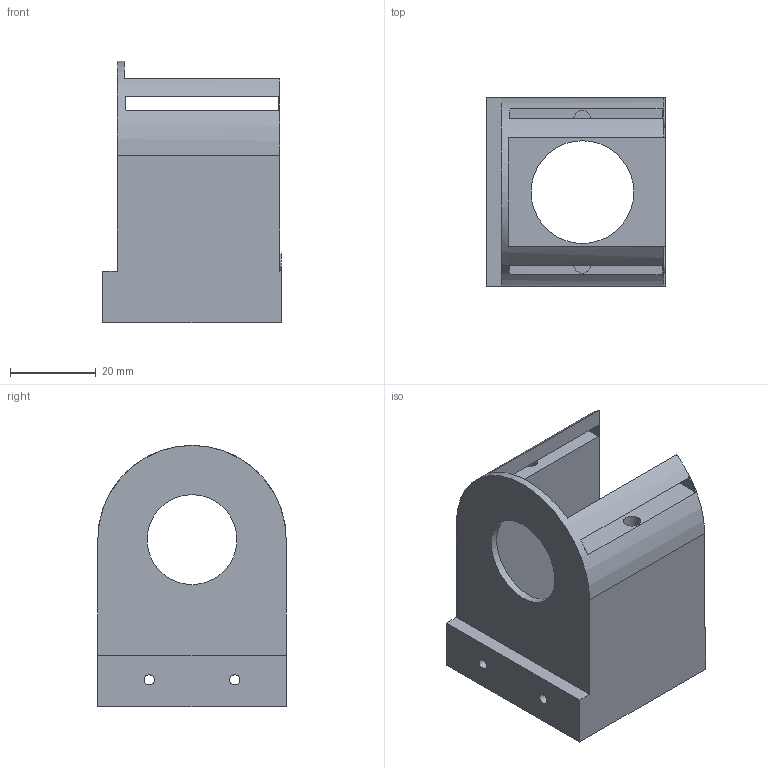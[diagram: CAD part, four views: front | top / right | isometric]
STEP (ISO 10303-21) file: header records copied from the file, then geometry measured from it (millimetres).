
FILE_DESCRIPTION(/* description */ ('Lightweight BRep snapshot from recovered OrionV2; original feature history remains in the preserved master. Packaging draft.'),/* implementation_level */ '2;1');
FILE_NAME(/* name */ '08 Shoulder pitch housing (1).step',/* time_stamp */ '2026-10-02T18:55:05+01:00',/* author */ (''),/* organization */ (''),/* preprocessor_version */ 'ST-DEVELOPER v20.2',/* originating_system */ 'Autodesk Translation Framework v15.15.0.0',/* authorisation */ '');
FILE_SCHEMA (('AUTOMOTIVE_DESIGN { 1 0 10303 214 3 1 1 }'));
Length unit declared in the file: millimetre
Products named in the file (1): 2026-10-02-18-55-04-830
Bounding box: 41.6 x 44 x 61 mm (x, y, z)
Volume: 40085.4 mm3; surface area: 16002.1 mm2
Topology: 1 solids, 1 shells, 48 faces, 120 edges, 80 vertices
Faces by surface type: plane 31, cylinder 17
Full cylindrical faces by diameter (mm): 2.4 x2, 4 x6, 21 x1, 24 x1
Entity records: 1513 total; most frequent: CARTESIAN_POINT 273, DIRECTION 250, ORIENTED_EDGE 240, EDGE_CURVE 120, AXIS2_PLACEMENT_3D 85, LINE 80, VECTOR 80, VERTEX_POINT 80
